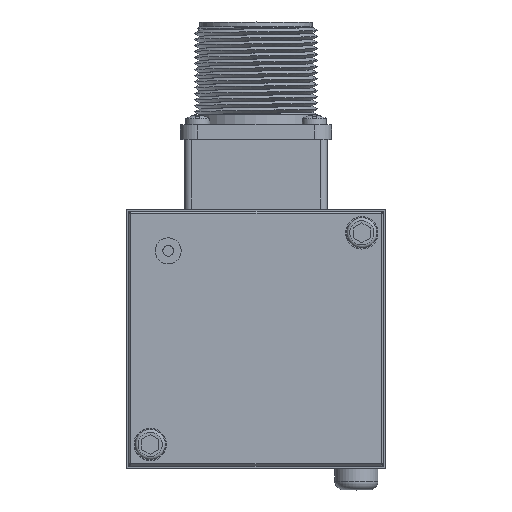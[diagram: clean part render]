
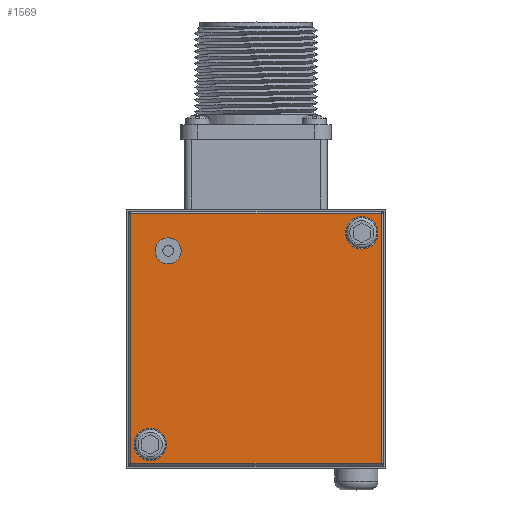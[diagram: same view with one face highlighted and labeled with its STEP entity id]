
A CAD part, top view. The second image highlights one B-rep face of the part: STEP entity #1569.
In plain terms, the highlighted planar face has unit normal (0, 0, 1).
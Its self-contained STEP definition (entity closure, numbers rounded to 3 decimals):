
#1569 = ADVANCED_FACE( '', ( #3608, #3609, #3610, #3611 ), #3612, .T. );
#3608 = FACE_OUTER_BOUND( '', #14846, .T. );
#3609 = FACE_BOUND( '', #14847, .T. );
#3610 = FACE_BOUND( '', #14848, .T. );
#3611 = FACE_BOUND( '', #14849, .T. );
#3612 = PLANE( '', #14850 );
#14846 = EDGE_LOOP( '', ( #20963, #20964, #20965, #20966 ) );
#14847 = EDGE_LOOP( '', ( #20967 ) );
#14848 = EDGE_LOOP( '', ( #20968 ) );
#14849 = EDGE_LOOP( '', ( #20969 ) );
#14850 = AXIS2_PLACEMENT_3D( '', #20970, #20971, #20972 );
#20963 = ORIENTED_EDGE( '', *, *, #24566, .T. );
#20964 = ORIENTED_EDGE( '', *, *, #24646, .T. );
#20965 = ORIENTED_EDGE( '', *, *, #24490, .T. );
#20966 = ORIENTED_EDGE( '', *, *, #23828, .T. );
#20967 = ORIENTED_EDGE( '', *, *, #24638, .T. );
#20968 = ORIENTED_EDGE( '', *, *, #24250, .T. );
#20969 = ORIENTED_EDGE( '', *, *, #23459, .T. );
#20970 = CARTESIAN_POINT( '', ( 29.5, 29.5, 50.5 ) );
#20971 = DIRECTION( '', ( 0., 0., 1. ) );
#20972 = DIRECTION( '', ( -1., 0., 0. ) );
#23459 = EDGE_CURVE( '', #25866, #25866, #25867, .T. );
#23828 = EDGE_CURVE( '', #26464, #25218, #26468, .T. );
#24250 = EDGE_CURVE( '', #27114, #27114, #27115, .T. );
#24490 = EDGE_CURVE( '', #25425, #26464, #27453, .T. );
#24566 = EDGE_CURVE( '', #25218, #26093, #27553, .T. );
#24638 = EDGE_CURVE( '', #27645, #27645, #27646, .T. );
#24646 = EDGE_CURVE( '', #26093, #25425, #27657, .T. );
#25218 = VERTEX_POINT( '', #28620 );
#25425 = VERTEX_POINT( '', #28914 );
#25866 = VERTEX_POINT( '', #30237 );
#25867 = CIRCLE( '', #30238, 3. );
#26093 = VERTEX_POINT( '', #31141 );
#26464 = VERTEX_POINT( '', #32274 );
#26468 = LINE( '', #32280, #32281 );
#27114 = VERTEX_POINT( '', #33433 );
#27115 = CIRCLE( '', #33434, 3.75 );
#27453 = LINE( '', #34793, #34794 );
#27553 = LINE( '', #34995, #34996 );
#27645 = VERTEX_POINT( '', #35153 );
#27646 = CIRCLE( '', #35154, 3.75 );
#27657 = LINE( '', #35171, #35172 );
#28620 = CARTESIAN_POINT( '', ( -29., -29., 50.5 ) );
#28914 = CARTESIAN_POINT( '', ( 29., 29., 50.5 ) );
#30237 = CARTESIAN_POINT( '', ( -17.329, 20.329, 50.5 ) );
#30238 = AXIS2_PLACEMENT_3D( '', #36730, #36731, #36732 );
#31141 = CARTESIAN_POINT( '', ( 29., -29., 50.5 ) );
#32274 = CARTESIAN_POINT( '', ( -29., 29., 50.5 ) );
#32280 = CARTESIAN_POINT( '', ( -29., -29.5, 50.5 ) );
#32281 = VECTOR( '', #37165, 1000. );
#33433 = CARTESIAN_POINT( '', ( 28.25, 24.5, 50.5 ) );
#33434 = AXIS2_PLACEMENT_3D( '', #37620, #37621, #37622 );
#34793 = CARTESIAN_POINT( '', ( -29.5, 29., 50.5 ) );
#34794 = VECTOR( '', #37874, 1000. );
#34995 = CARTESIAN_POINT( '', ( 29.5, -29., 50.5 ) );
#34996 = VECTOR( '', #37953, 1000. );
#35153 = CARTESIAN_POINT( '', ( -20.75, -24.5, 50.5 ) );
#35154 = AXIS2_PLACEMENT_3D( '', #38003, #38004, #38005 );
#35171 = CARTESIAN_POINT( '', ( 29., 29.5, 50.5 ) );
#35172 = VECTOR( '', #38009, 1000. );
#36730 = CARTESIAN_POINT( '', ( -20.329, 20.329, 50.5 ) );
#36731 = DIRECTION( '', ( 0., 0., -1. ) );
#36732 = DIRECTION( '', ( 1., 0., 0. ) );
#37165 = DIRECTION( '', ( 0., -1., 0. ) );
#37620 = CARTESIAN_POINT( '', ( 24.5, 24.5, 50.5 ) );
#37621 = DIRECTION( '', ( 0., 0., -1. ) );
#37622 = DIRECTION( '', ( 1., 0., 0. ) );
#37874 = DIRECTION( '', ( -1., 0., 0. ) );
#37953 = DIRECTION( '', ( 1., 0., 0. ) );
#38003 = CARTESIAN_POINT( '', ( -24.5, -24.5, 50.5 ) );
#38004 = DIRECTION( '', ( 0., 0., -1. ) );
#38005 = DIRECTION( '', ( 1., 0., 0. ) );
#38009 = DIRECTION( '', ( 0., 1., 0. ) );
